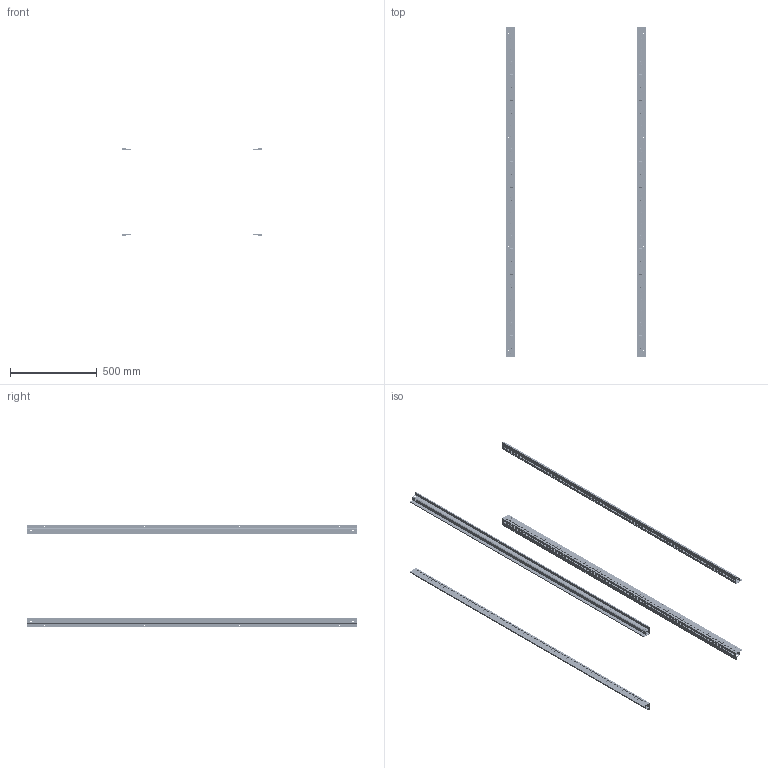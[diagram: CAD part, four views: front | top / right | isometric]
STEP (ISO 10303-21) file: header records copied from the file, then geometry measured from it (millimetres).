
FILE_DESCRIPTION(('Open CASCADE Model'),'2;1');
FILE_NAME('Open CASCADE Shape Model','2025-01-27T17:03:48',('Author'),( 'Open CASCADE'),'Open CASCADE STEP processor 7.8','Open CASCADE 7.8' ,'Unknown');
FILE_SCHEMA(('AUTOMOTIVE_DESIGN { 1 0 10303 214 1 1 1 1 }'));
Products named in the file (1): Solid1
Bounding box: 799.4 x 1899 x 585.4 mm (x, y, z)
Volume: 1844349 mm3; surface area: 2816573 mm2
Topology: 4 solids, 4 shells, 14072 faces, 41596 edges, 27832 vertices
Faces by surface type: cylinder 9176, plane 4896
Entity records: 486396 total; most frequent: DIRECTION 87638, CARTESIAN_POINT 84869, ORIENTED_EDGE 83192, EDGE_CURVE 41596, AXIS2_PLACEMENT_3D 32425, VERTEX_POINT 27832, LINE 22788, VECTOR 22788
